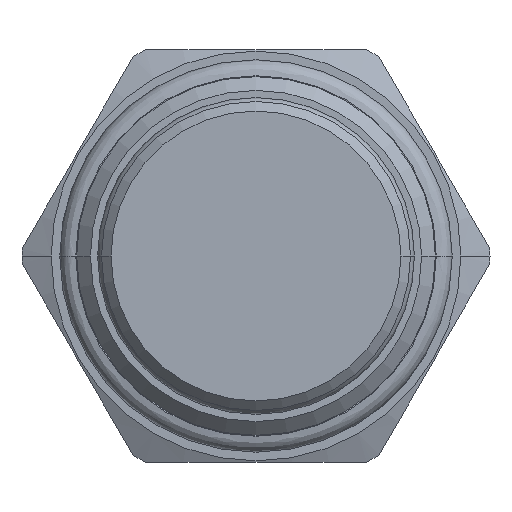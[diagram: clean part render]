
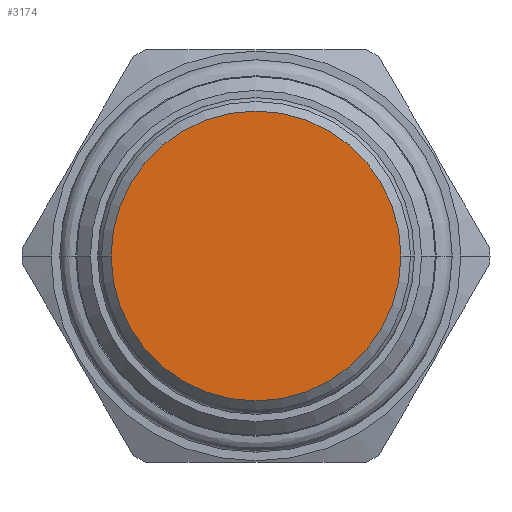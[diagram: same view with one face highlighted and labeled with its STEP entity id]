
A CAD part, front view. The second image highlights one B-rep face of the part: STEP entity #3174.
In plain terms, the highlighted planar face has unit normal (0, -1, 0).
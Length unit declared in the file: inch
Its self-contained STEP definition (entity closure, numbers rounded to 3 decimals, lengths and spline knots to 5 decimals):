
#1339=CARTESIAN_POINT('',(0.,-1.78751,0.));
#1340=DIRECTION('',(0.,1.,0.));
#1341=DIRECTION('',(1.,0.,0.));
#1342=AXIS2_PLACEMENT_3D('',#1339,#1340,#1341);
#1349=CARTESIAN_POINT('',(0.,-1.78751,0.));
#1350=DIRECTION('',(0.,1.,0.));
#1351=DIRECTION('',(-1.,0.,0.));
#1352=AXIS2_PLACEMENT_3D('',#1349,#1350,#1351);
#1387=CARTESIAN_POINT('',(0.527,-1.78751,0.));
#1388=CARTESIAN_POINT('',(-0.527,-1.78751,0.));
#1389=VERTEX_POINT('',#1387);
#1390=VERTEX_POINT('',#1388);
#3164=CARTESIAN_POINT('',(0.,-1.78751,0.));
#3165=DIRECTION('',(0.,1.,0.));
#3166=DIRECTION('',(1.,0.,0.));
#3167=AXIS2_PLACEMENT_3D('',#3164,#3165,#3166);
#3168=PLANE('',#3167);
#3169=ORIENTED_EDGE('',*,*,#3154,.T.);
#3171=ORIENTED_EDGE('',*,*,#3170,.T.);
#3172=EDGE_LOOP('',(#3169,#3171));
#3173=FACE_OUTER_BOUND('',#3172,.F.);
#3174=ADVANCED_FACE('',(#3173),#3168,.F.);
#1343=CIRCLE('',#1342,0.527);
#1353=CIRCLE('',#1352,0.527);
#3154=EDGE_CURVE('',#1389,#1390,#1343,.T.);
#3170=EDGE_CURVE('',#1390,#1389,#1353,.T.);
